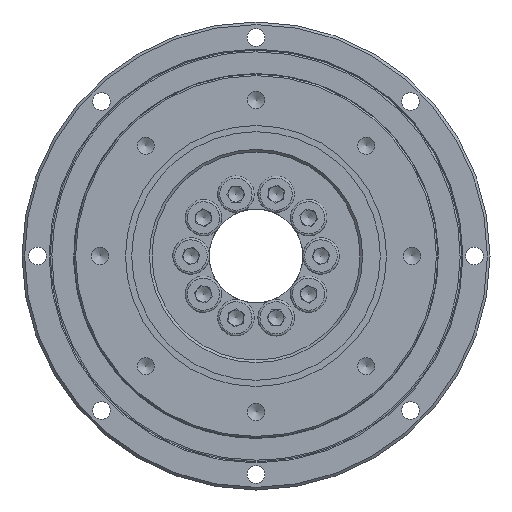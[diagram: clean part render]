
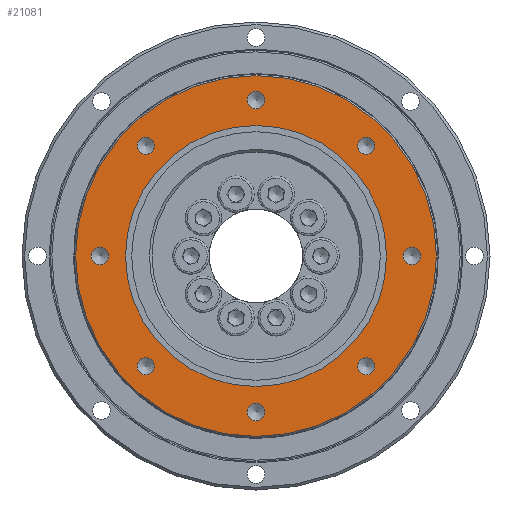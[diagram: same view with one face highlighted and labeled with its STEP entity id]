
A CAD part, left-side view. The second image highlights one B-rep face of the part: STEP entity #21081.
In plain terms, the highlighted planar face has unit normal (-1, 0, 0).
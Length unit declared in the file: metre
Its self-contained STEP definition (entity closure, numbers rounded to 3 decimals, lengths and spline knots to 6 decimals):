
#21 = DIRECTION ( 'NONE',  ( -1., 0., 0. ) ) ;
#310 = ORIENTED_EDGE ( 'NONE', *, *, #7545, .F. ) ;
#1127 = EDGE_CURVE ( 'NONE', #18278, #18278, #4909, .T. ) ;
#1502 = EDGE_LOOP ( 'NONE', ( #2322 ) ) ;
#1584 = AXIS2_PLACEMENT_3D ( 'NONE', #5728, #8043, #13817 ) ;
#1962 = VERTEX_POINT ( 'NONE', #6476 ) ;
#2039 = CARTESIAN_POINT ( 'NONE',  ( -0.0177, -0.021213, 0.021213 ) ) ;
#2322 = ORIENTED_EDGE ( 'NONE', *, *, #14484, .F. ) ;
#2470 = CARTESIAN_POINT ( 'NONE',  ( -0.0177, 0., 0. ) ) ;
#3134 = ORIENTED_EDGE ( 'NONE', *, *, #17951, .F. ) ;
#3599 = CARTESIAN_POINT ( 'NONE',  ( -0.0177, 0., -0.03 ) ) ;
#3618 = FACE_BOUND ( 'NONE', #19914, .T. ) ;
#3742 = DIRECTION ( 'NONE',  ( -1., 0., 0. ) ) ;
#3893 = FACE_BOUND ( 'NONE', #15085, .T. ) ;
#4354 = CIRCLE ( 'NONE', #7846, 0.00165 ) ;
#4355 = CARTESIAN_POINT ( 'NONE',  ( -0.0177, -0.03, 0. ) ) ;
#4403 = FACE_OUTER_BOUND ( 'NONE', #10382, .T. ) ;
#4720 = DIRECTION ( 'NONE',  ( 0., 0., -1. ) ) ;
#4909 = CIRCLE ( 'NONE', #9649, 0.00165 ) ;
#5382 = EDGE_LOOP ( 'NONE', ( #14876 ) ) ;
#5401 = VERTEX_POINT ( 'NONE', #13752 ) ;
#5541 = CARTESIAN_POINT ( 'NONE',  ( -0.0177, -0.021213, 0.019563 ) ) ;
#5569 = DIRECTION ( 'NONE',  ( 1., 0., 0. ) ) ;
#5575 = VERTEX_POINT ( 'NONE', #10069 ) ;
#5728 = CARTESIAN_POINT ( 'NONE',  ( -0.0177, 0.03, 0. ) ) ;
#5797 = CIRCLE ( 'NONE', #9712, 0.0251 ) ;
#6182 = EDGE_CURVE ( 'NONE', #10129, #10129, #20127, .T. ) ;
#6476 = CARTESIAN_POINT ( 'NONE',  ( -0.0177, 0., -0.03165 ) ) ;
#6646 = EDGE_LOOP ( 'NONE', ( #8095 ) ) ;
#7322 = VERTEX_POINT ( 'NONE', #5541 ) ;
#7543 = CIRCLE ( 'NONE', #25954, 0.00165 ) ;
#7545 = EDGE_CURVE ( 'NONE', #8879, #8879, #4354, .T. ) ;
#7579 = CARTESIAN_POINT ( 'NONE',  ( -0.0177, 0.021213, 0.021213 ) ) ;
#7604 = FACE_BOUND ( 'NONE', #21332, .T. ) ;
#7846 = AXIS2_PLACEMENT_3D ( 'NONE', #7579, #13893, #11158 ) ;
#8043 = DIRECTION ( 'NONE',  ( -1., 0., 0. ) ) ;
#8095 = ORIENTED_EDGE ( 'NONE', *, *, #1127, .F. ) ;
#8373 = DIRECTION ( 'NONE',  ( 1., 0., 0. ) ) ;
#8734 = DIRECTION ( 'NONE',  ( -1., 0., 0. ) ) ;
#8879 = VERTEX_POINT ( 'NONE', #20963 ) ;
#9390 = EDGE_CURVE ( 'NONE', #5575, #5575, #23688, .T. ) ;
#9649 = AXIS2_PLACEMENT_3D ( 'NONE', #19447, #8734, #16849 ) ;
#9675 = DIRECTION ( 'NONE',  ( -1., 0., 0. ) ) ;
#9712 = AXIS2_PLACEMENT_3D ( 'NONE', #19294, #10908, #25331 ) ;
#10069 = CARTESIAN_POINT ( 'NONE',  ( -0.0177, 0., 0.02835 ) ) ;
#10129 = VERTEX_POINT ( 'NONE', #27004 ) ;
#10382 = EDGE_LOOP ( 'NONE', ( #24385 ) ) ;
#10908 = DIRECTION ( 'NONE',  ( -1., 0., 0. ) ) ;
#11158 = DIRECTION ( 'NONE',  ( 0., 0., -1. ) ) ;
#11292 = VERTEX_POINT ( 'NONE', #15549 ) ;
#11843 = CARTESIAN_POINT ( 'NONE',  ( -0.0177, -0.0347, 0. ) ) ;
#11869 = CARTESIAN_POINT ( 'NONE',  ( -0.0177, 0., 0.03 ) ) ;
#12855 = CARTESIAN_POINT ( 'NONE',  ( -0.0177, 0.021213, -0.022863 ) ) ;
#13105 = EDGE_LOOP ( 'NONE', ( #310 ) ) ;
#13159 = AXIS2_PLACEMENT_3D ( 'NONE', #11869, #9675, #18056 ) ;
#13385 = CIRCLE ( 'NONE', #1584, 0.00165 ) ;
#13752 = CARTESIAN_POINT ( 'NONE',  ( -0.0177, 0.03, -0.00165 ) ) ;
#13756 = DIRECTION ( 'NONE',  ( 0., 0., -1. ) ) ;
#13817 = DIRECTION ( 'NONE',  ( 0., 0., -1. ) ) ;
#13893 = DIRECTION ( 'NONE',  ( -1., 0., 0. ) ) ;
#14024 = CARTESIAN_POINT ( 'NONE',  ( -0.0177, -0.03, -0.00165 ) ) ;
#14322 = FACE_BOUND ( 'NONE', #13105, .T. ) ;
#14484 = EDGE_CURVE ( 'NONE', #11292, #11292, #5797, .T. ) ;
#14864 = AXIS2_PLACEMENT_3D ( 'NONE', #2470, #8373, #25107 ) ;
#14876 = ORIENTED_EDGE ( 'NONE', *, *, #17229, .F. ) ;
#15085 = EDGE_LOOP ( 'NONE', ( #18259 ) ) ;
#15549 = CARTESIAN_POINT ( 'NONE',  ( -0.0177, 0., -0.0251 ) ) ;
#15663 = ORIENTED_EDGE ( 'NONE', *, *, #26896, .F. ) ;
#15976 = FACE_BOUND ( 'NONE', #5382, .T. ) ;
#16214 = CARTESIAN_POINT ( 'NONE',  ( -0.0177, -0.021213, -0.022863 ) ) ;
#16450 = ORIENTED_EDGE ( 'NONE', *, *, #17295, .F. ) ;
#16705 = DIRECTION ( 'NONE',  ( 0., 0., -1. ) ) ;
#16849 = DIRECTION ( 'NONE',  ( 0., 0., -1. ) ) ;
#16995 = VERTEX_POINT ( 'NONE', #12855 ) ;
#17229 = EDGE_CURVE ( 'NONE', #17746, #17746, #21256, .T. ) ;
#17295 = EDGE_CURVE ( 'NONE', #7322, #7322, #26498, .T. ) ;
#17746 = VERTEX_POINT ( 'NONE', #14024 ) ;
#17766 = AXIS2_PLACEMENT_3D ( 'NONE', #2039, #22864, #16705 ) ;
#17951 = EDGE_CURVE ( 'NONE', #5401, #5401, #13385, .T. ) ;
#18056 = DIRECTION ( 'NONE',  ( 0., 0., -1. ) ) ;
#18169 = FACE_BOUND ( 'NONE', #1502, .T. ) ;
#18259 = ORIENTED_EDGE ( 'NONE', *, *, #9390, .F. ) ;
#18278 = VERTEX_POINT ( 'NONE', #16214 ) ;
#18633 = DIRECTION ( 'NONE',  ( 0., 0., -1. ) ) ;
#19294 = CARTESIAN_POINT ( 'NONE',  ( -0.0177, 0., 0. ) ) ;
#19339 = EDGE_LOOP ( 'NONE', ( #22827 ) ) ;
#19387 = EDGE_CURVE ( 'NONE', #1962, #1962, #7543, .T. ) ;
#19447 = CARTESIAN_POINT ( 'NONE',  ( -0.0177, -0.021213, -0.021213 ) ) ;
#19914 = EDGE_LOOP ( 'NONE', ( #15663 ) ) ;
#20089 = FACE_BOUND ( 'NONE', #6646, .T. ) ;
#20127 = CIRCLE ( 'NONE', #14864, 0.0347 ) ;
#20963 = CARTESIAN_POINT ( 'NONE',  ( -0.0177, 0.021213, 0.019563 ) ) ;
#21081 = ADVANCED_FACE ( 'NONE', ( #4403, #18169, #7604, #3893, #14322, #24752, #3618, #22683, #20089, #15976 ), #24340, .F. ) ;
#21256 = CIRCLE ( 'NONE', #22574, 0.00165 ) ;
#21332 = EDGE_LOOP ( 'NONE', ( #16450 ) ) ;
#22274 = DIRECTION ( 'NONE',  ( 0., 0., 1. ) ) ;
#22407 = EDGE_LOOP ( 'NONE', ( #3134 ) ) ;
#22574 = AXIS2_PLACEMENT_3D ( 'NONE', #4355, #21, #18633 ) ;
#22683 = FACE_BOUND ( 'NONE', #19339, .T. ) ;
#22827 = ORIENTED_EDGE ( 'NONE', *, *, #19387, .F. ) ;
#22864 = DIRECTION ( 'NONE',  ( -1., 0., 0. ) ) ;
#23047 = CIRCLE ( 'NONE', #23509, 0.00165 ) ;
#23498 = DIRECTION ( 'NONE',  ( -1., 0., 0. ) ) ;
#23509 = AXIS2_PLACEMENT_3D ( 'NONE', #25561, #23498, #4720 ) ;
#23688 = CIRCLE ( 'NONE', #13159, 0.00165 ) ;
#24340 = PLANE ( 'NONE',  #26683 ) ;
#24385 = ORIENTED_EDGE ( 'NONE', *, *, #6182, .F. ) ;
#24752 = FACE_BOUND ( 'NONE', #22407, .T. ) ;
#25107 = DIRECTION ( 'NONE',  ( 0., 0., 1. ) ) ;
#25331 = DIRECTION ( 'NONE',  ( 0., 0., -1. ) ) ;
#25561 = CARTESIAN_POINT ( 'NONE',  ( -0.0177, 0.021213, -0.021213 ) ) ;
#25954 = AXIS2_PLACEMENT_3D ( 'NONE', #3599, #3742, #13756 ) ;
#26498 = CIRCLE ( 'NONE', #17766, 0.00165 ) ;
#26683 = AXIS2_PLACEMENT_3D ( 'NONE', #11843, #5569, #22274 ) ;
#26896 = EDGE_CURVE ( 'NONE', #16995, #16995, #23047, .T. ) ;
#27004 = CARTESIAN_POINT ( 'NONE',  ( -0.0177, 0., 0.0347 ) ) ;
